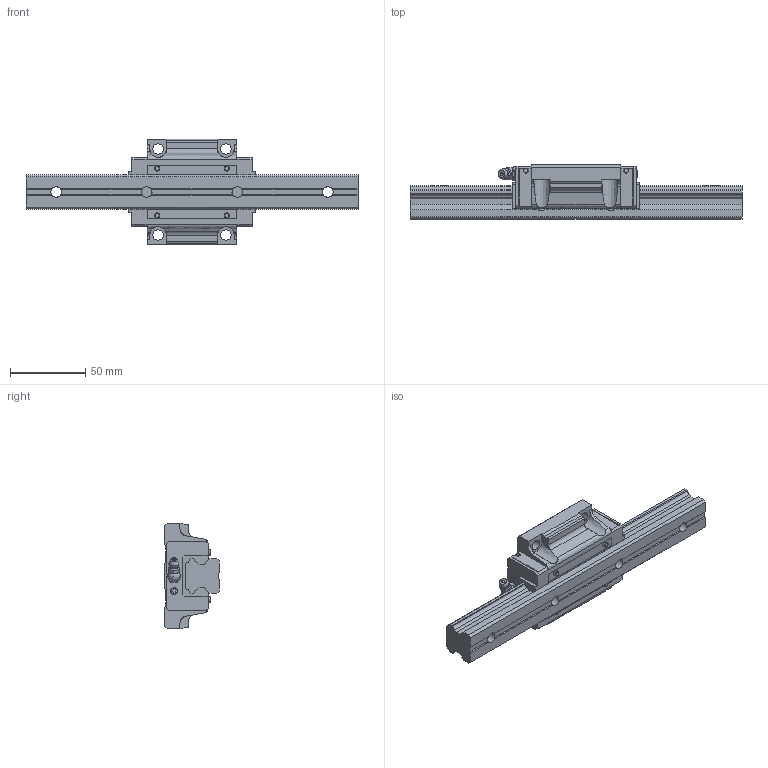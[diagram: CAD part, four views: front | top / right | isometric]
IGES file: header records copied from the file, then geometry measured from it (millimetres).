
Start section: Data from Parasolid IGES Translator 26.0.171, Copyright(c) 2006 Siemens PLM Software. All Rights Reserved.
Global section: file name: HSR25M1B1SS-220L_G20_0_B-M6F_68-05_0_0_0.igs; native system: By Siemens PLM Incorporated; preprocessor: XPlus GENERIC/IGES 26.0.171; author: Noname; organization: Noname; date: 20240523.061425; units: millimetre
Bounding box: 220 x 36 x 70 mm (x, y, z)
Surface area: 45391.9 mm2 (no closed solid volume)
Topology: 0 solids, 0 shells, 311 faces, 1684 edges, 1615 vertices
Faces by surface type: extrusion 226, revolution 85
